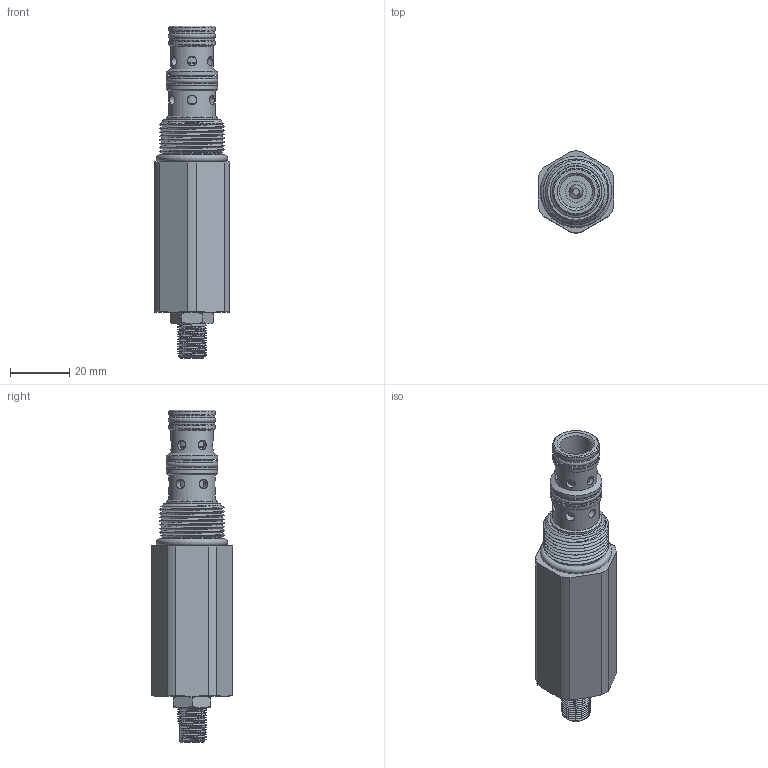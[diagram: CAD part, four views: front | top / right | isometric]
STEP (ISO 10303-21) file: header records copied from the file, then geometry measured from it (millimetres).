
FILE_DESCRIPTION(/* description */ ('','CAx-IF Rec.Pracs.---Representation and Presentation of Product Manufacturing Information (PMI)---4.0---2014-10-13'),/* implementation_level */ '2;1');
FILE_NAME(/* name */ 'P:\EARS\EAR16xx\EAR1683 - catalog pages changes\Group3_Distribution_1_18_23\RTeck Agency_Tom_UNSENT\_step files\HDFFAP00.stp',/* time_stamp */ '2023-01-20T12:57:51-06:00',/* author */ ('Michael'),/* organization */ (''),/* preprocessor_version */ 'ST-DEVELOPER v17.2',/* originating_system */ 'Autodesk Inventor 2019',/* authorisation */ '');
FILE_SCHEMA (('AP242_MANAGED_MODEL_BASED_3D_ENGINEERING_MIM_LF { 1 0 10303 442 1 1 4 }'));
Length unit declared in the file: inch
Products named in the file (1): HDFFAP00
Bounding box: 25.4 x 27.67 x 112.29 mm (x, y, z)
Volume: 38610.2 mm3; surface area: 14384.9 mm2
Topology: 2 solids, 4 shells, 283 faces, 778 edges, 544 vertices
Faces by surface type: plane 114, cylinder 107, cone 37, bspline 18, torus 7
Full cylindrical faces by diameter (mm): 3.175 x12, 3.962 x5, 4.775 x1, 7.137 x1, 8.128 x1, 9.525 x6, 10.414 x8, 11.09 x10, 11.11 x1, 11.151 x1, 12.992 x4, 14.224 x2, 14.592 x3, 15.392 x2, 15.748 x1, 15.773 x2, 16.967 x2, 17.323 x1, 17.374 x2, 17.399 x1, 19.621 x2, 22.225 x6
Entity records: 17480 total; most frequent: CARTESIAN_POINT 10153, ORIENTED_EDGE 1554, DIRECTION 1374, EDGE_CURVE 777, AXIS2_PLACEMENT_3D 567, VERTEX_POINT 544, EDGE_LOOP 357, FACE_OUTER_BOUND 283
